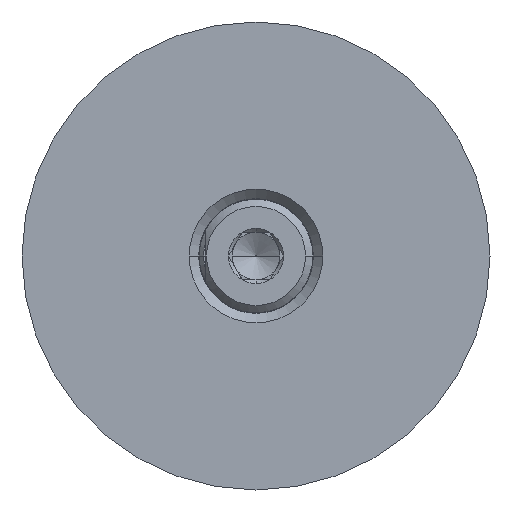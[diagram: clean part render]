
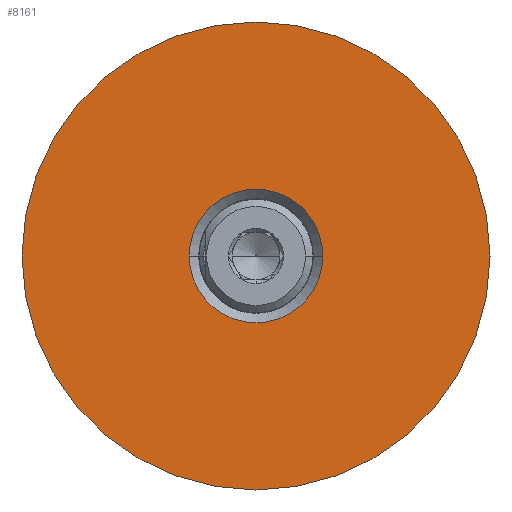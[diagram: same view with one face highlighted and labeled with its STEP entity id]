
A CAD part, left-side view. The second image highlights one B-rep face of the part: STEP entity #8161.
In plain terms, the highlighted planar face has unit normal (-1, 0, 0).
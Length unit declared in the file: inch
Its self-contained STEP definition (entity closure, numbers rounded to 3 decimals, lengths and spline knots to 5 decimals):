
#7969=CARTESIAN_POINT('',(0.,-0.2185,2.61));
#7970=VERTEX_POINT('',#7969);
#7978=CARTESIAN_POINT('',(0.,0.2185,2.61));
#7979=VERTEX_POINT('',#7978);
#7986=CARTESIAN_POINT('',(0.,0.0,2.61));
#7987=DIRECTION('',(-1.0,0.0,0.0));
#7988=DIRECTION('',(0.0,-1.0,0.0));
#7989=AXIS2_PLACEMENT_3D('',#7986,#7987,#7988);
#7990=CIRCLE('',#7989,0.2185);
#7991=EDGE_CURVE('',#7979,#7970,#7990,.T.);
#8003=CARTESIAN_POINT('',(0.,-0.765,2.61));
#8004=VERTEX_POINT('',#8003);
#8020=CARTESIAN_POINT('',(0.,0.765,2.61));
#8021=VERTEX_POINT('',#8020);
#8028=CARTESIAN_POINT('',(0.,0.0,2.61));
#8029=DIRECTION('',(-1.0,0.0,0.0));
#8030=DIRECTION('',(0.0,-1.0,0.0));
#8031=AXIS2_PLACEMENT_3D('',#8028,#8029,#8030);
#8032=CIRCLE('',#8031,0.765);
#8033=EDGE_CURVE('',#8004,#8021,#8032,.T.);
#8130=CARTESIAN_POINT('',(0.,0.0,2.61));
#8131=DIRECTION('',(-1.0,0.0,0.0));
#8132=DIRECTION('',(0.0,-1.0,0.0));
#8133=AXIS2_PLACEMENT_3D('',#8130,#8131,#8132);
#8134=CIRCLE('',#8133,0.765);
#8135=EDGE_CURVE('',#8021,#8004,#8134,.T.);
#8142=CARTESIAN_POINT('',(0.,-0.49175,2.61));
#8143=DIRECTION('',(-1.0,0.0,0.0));
#8144=DIRECTION('',(0.0,0.0,1.0));
#8145=AXIS2_PLACEMENT_3D('',#8142,#8143,#8144);
#8146=PLANE('',#8145);
#8147=ORIENTED_EDGE('',*,*,#8033,.T.);
#8148=ORIENTED_EDGE('',*,*,#8135,.T.);
#8149=EDGE_LOOP('',(#8147,#8148));
#8150=FACE_OUTER_BOUND('',#8149,.T.);
#8151=CARTESIAN_POINT('',(0.,0.0,2.61));
#8152=DIRECTION('',(-1.0,0.0,0.0));
#8153=DIRECTION('',(0.0,-1.0,0.0));
#8154=AXIS2_PLACEMENT_3D('',#8151,#8152,#8153);
#8155=CIRCLE('',#8154,0.2185);
#8156=EDGE_CURVE('',#7970,#7979,#8155,.T.);
#8157=ORIENTED_EDGE('',*,*,#8156,.F.);
#8158=ORIENTED_EDGE('',*,*,#7991,.F.);
#8159=EDGE_LOOP('',(#8157,#8158));
#8160=FACE_BOUND('',#8159,.T.);
#8161=ADVANCED_FACE('',(#8150,#8160),#8146,.T.);
